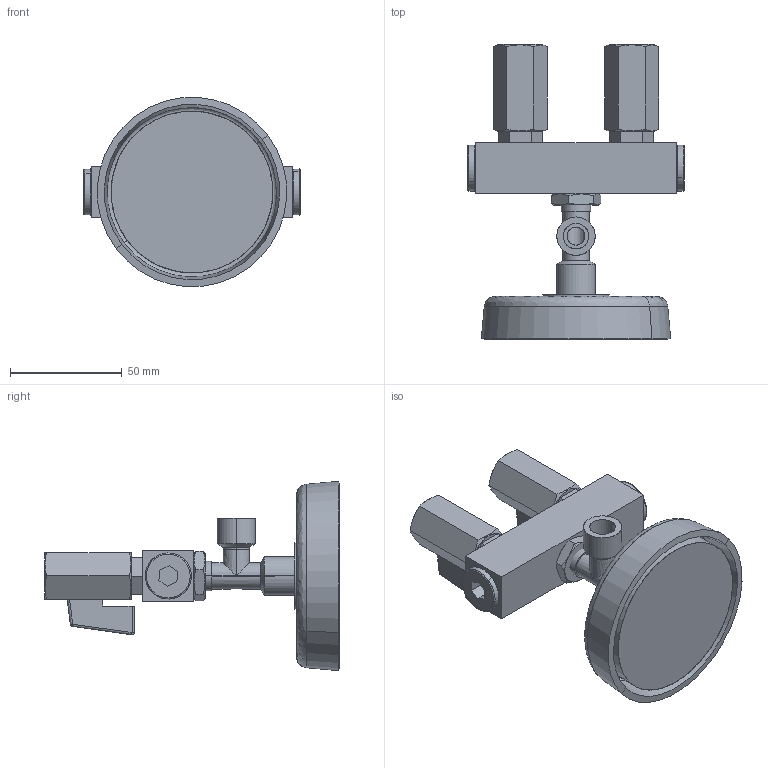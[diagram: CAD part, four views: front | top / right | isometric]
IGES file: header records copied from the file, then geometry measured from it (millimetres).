
Start section: SolidWorks IGES file using analytic representation for surfaces
Global section: file name: G:\Silvent\Ritningar\Övrigt\IGES\Silvent 2222.IGS; native system: SolidWorks 2011; preprocessor: SolidWorks 2011; author: silvrati; date: 111107.121037; units: millimetre
Bounding box: 97 x 132.28 x 84.86 mm (x, y, z)
Surface area: 63205.4 mm2 (no closed solid volume)
Topology: 0 solids, 0 shells, 270 faces, 3410 edges, 3406 vertices
Faces by surface type: revolution 144, bspline 126
